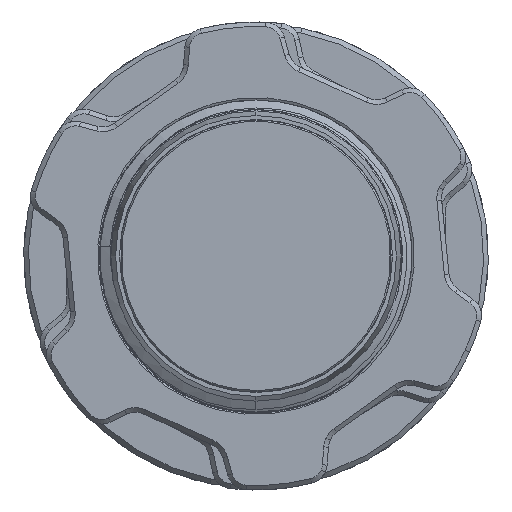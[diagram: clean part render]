
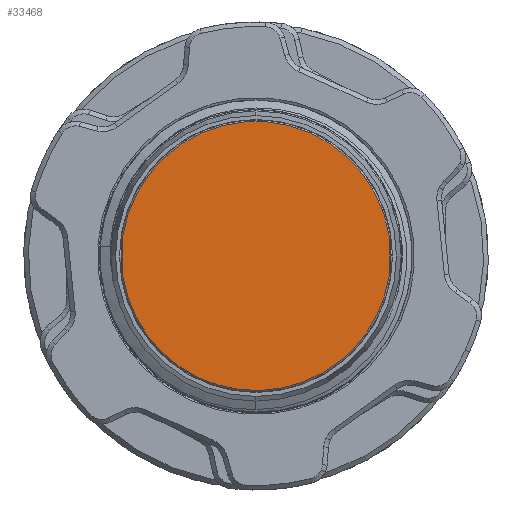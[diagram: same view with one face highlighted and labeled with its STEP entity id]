
A CAD part, front view. The second image highlights one B-rep face of the part: STEP entity #33468.
In plain terms, the highlighted planar face has unit normal (0, -1, 0) as drawn and (0, 0, -1) by its records, which use the part's own axes.
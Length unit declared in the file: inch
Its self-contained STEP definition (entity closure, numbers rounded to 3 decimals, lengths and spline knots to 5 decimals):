
#4664 = VECTOR ( 'NONE', #12629, 39.37008 ) ;
#5331 = DIRECTION ( 'NONE',  ( 1., 0., 0. ) ) ;
#5374 = VERTEX_POINT ( 'NONE', #7932 ) ;
#6881 = CARTESIAN_POINT ( 'NONE',  ( -0.31284, 0.80377, 0. ) ) ;
#7932 = CARTESIAN_POINT ( 'NONE',  ( -0.53966, 0.67281, 0. ) ) ;
#7957 = EDGE_CURVE ( 'NONE', #39908, #5374, #26328, .T. ) ;
#8153 = DIRECTION ( 'NONE',  ( 0., 0., -1. ) ) ;
#10582 = PLANE ( 'NONE',  #42267 ) ;
#12159 = EDGE_CURVE ( 'NONE', #40480, #18220, #31144, .T. ) ;
#12629 = DIRECTION ( 'NONE',  ( 0.866, 0.5, 0. ) ) ;
#13285 = DIRECTION ( 'NONE',  ( -0.866, -0.5, 0. ) ) ;
#14615 = VERTEX_POINT ( 'NONE', #6881 ) ;
#14979 = DIRECTION ( 'NONE',  ( 0., 0., -1. ) ) ;
#15108 = EDGE_CURVE ( 'NONE', #18220, #39908, #25464, .T. ) ;
#18220 = VERTEX_POINT ( 'NONE', #45192 ) ;
#18456 = LINE ( 'NONE', #41347, #4664 ) ;
#19083 = DIRECTION ( 'NONE',  ( 1., 0., 0. ) ) ;
#19683 = EDGE_LOOP ( 'NONE', ( #21628, #20360, #21363, #33990, #31192 ) ) ;
#20360 = ORIENTED_EDGE ( 'NONE', *, *, #31058, .T. ) ;
#20694 = DIRECTION ( 'NONE',  ( 0., 0., 1. ) ) ;
#21155 = DIRECTION ( 'NONE',  ( 1., 0., 0. ) ) ;
#21363 = ORIENTED_EDGE ( 'NONE', *, *, #38943, .T. ) ;
#21628 = ORIENTED_EDGE ( 'NONE', *, *, #7957, .T. ) ;
#22794 = DIRECTION ( 'NONE',  ( 0., 0., -1. ) ) ;
#25464 = LINE ( 'NONE', #31041, #43237 ) ;
#26328 = CIRCLE ( 'NONE', #30929, 0.8625 ) ;
#29129 = CIRCLE ( 'NONE', #45431, 0.8625 ) ;
#30929 = AXIS2_PLACEMENT_3D ( 'NONE', #36125, #14979, #42812 ) ;
#31041 = CARTESIAN_POINT ( 'NONE',  ( 0.42625, -0.73829, 0. ) ) ;
#31058 = EDGE_CURVE ( 'NONE', #5374, #14615, #18456, .T. ) ;
#31144 = CIRCLE ( 'NONE', #34036, 0.8625 ) ;
#31192 = ORIENTED_EDGE ( 'NONE', *, *, #15108, .T. ) ;
#33468 = ADVANCED_FACE ( 'NONE', ( #38853 ), #10582, .F. ) ;
#33990 = ORIENTED_EDGE ( 'NONE', *, *, #12159, .T. ) ;
#34036 = AXIS2_PLACEMENT_3D ( 'NONE', #36841, #8153, #5331 ) ;
#36125 = CARTESIAN_POINT ( 'NONE',  ( 0., 0., 0. ) ) ;
#36841 = CARTESIAN_POINT ( 'NONE',  ( 0., 0., 0. ) ) ;
#37563 = CARTESIAN_POINT ( 'NONE',  ( 0.8625, 0., 0. ) ) ;
#38215 = CARTESIAN_POINT ( 'NONE',  ( 0.31284, -0.80377, 0. ) ) ;
#38706 = CARTESIAN_POINT ( 'NONE',  ( 0., 0., 0. ) ) ;
#38853 = FACE_OUTER_BOUND ( 'NONE', #19683, .T. ) ;
#38943 = EDGE_CURVE ( 'NONE', #14615, #40480, #29129, .T. ) ;
#39908 = VERTEX_POINT ( 'NONE', #38215 ) ;
#40318 = CARTESIAN_POINT ( 'NONE',  ( 0., 0., 0. ) ) ;
#40480 = VERTEX_POINT ( 'NONE', #37563 ) ;
#41347 = CARTESIAN_POINT ( 'NONE',  ( -0.42625, 0.73829, 0. ) ) ;
#42267 = AXIS2_PLACEMENT_3D ( 'NONE', #38706, #20694, #21155 ) ;
#42812 = DIRECTION ( 'NONE',  ( 1., 0., 0. ) ) ;
#43237 = VECTOR ( 'NONE', #13285, 39.37008 ) ;
#45192 = CARTESIAN_POINT ( 'NONE',  ( 0.53966, -0.67281, 0. ) ) ;
#45431 = AXIS2_PLACEMENT_3D ( 'NONE', #40318, #22794, #19083 ) ;
